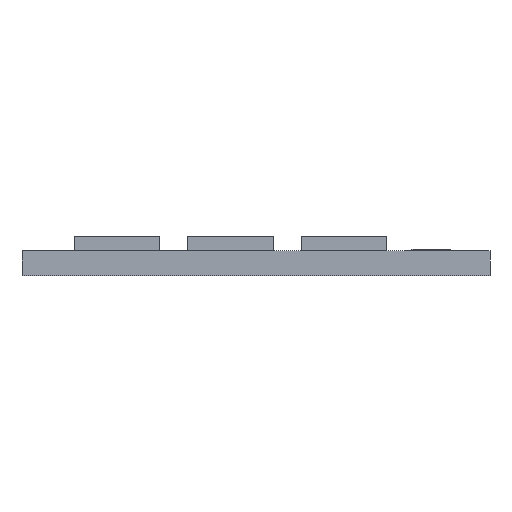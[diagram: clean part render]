
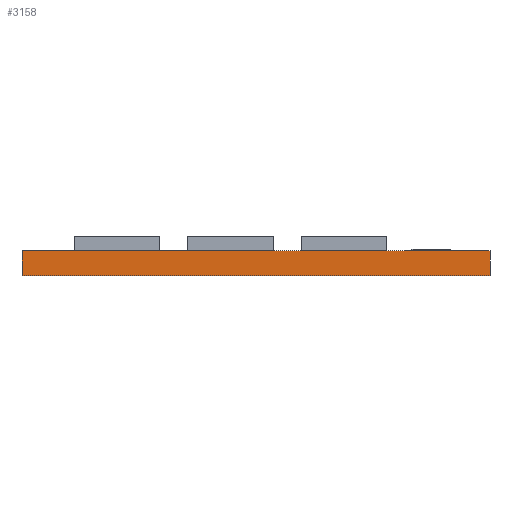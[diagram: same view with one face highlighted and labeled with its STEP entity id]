
A CAD part, left-side view. The second image highlights one B-rep face of the part: STEP entity #3158.
In plain terms, the highlighted planar face has unit normal (-1, 0, 0).
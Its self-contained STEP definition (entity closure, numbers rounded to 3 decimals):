
#3010=CARTESIAN_POINT('',(-16.5,-16.5,0.0));
#3011=VERTEX_POINT('',#3010);
#3018=CARTESIAN_POINT('',(-16.5,16.5,0.0));
#3019=VERTEX_POINT('',#3018);
#3020=CARTESIAN_POINT('',(-16.5,-16.5,0.0));
#3021=DIRECTION('',(0.0,1.0,0.0));
#3022=VECTOR('',#3021,33.0);
#3023=LINE('',#3020,#3022);
#3024=EDGE_CURVE('',#3011,#3019,#3023,.T.);
#3069=CARTESIAN_POINT('',(-16.5,-16.5,1.75));
#3070=VERTEX_POINT('',#3069);
#3077=CARTESIAN_POINT('',(-16.5,-16.5,0.0));
#3078=DIRECTION('',(0.0,0.0,1.0));
#3079=VECTOR('',#3078,1.75);
#3080=LINE('',#3077,#3079);
#3081=EDGE_CURVE('',#3011,#3070,#3080,.T.);
#3135=CARTESIAN_POINT('',(-16.5,-16.5,0.0));
#3136=DIRECTION('',(-1.0,0.0,0.0));
#3137=DIRECTION('',(0.0,0.0,1.0));
#3138=AXIS2_PLACEMENT_3D('',#3135,#3136,#3137);
#3139=PLANE('',#3138);
#3140=CARTESIAN_POINT('',(-16.5,16.5,1.75));
#3141=VERTEX_POINT('',#3140);
#3142=CARTESIAN_POINT('',(-16.5,-16.5,1.75));
#3143=DIRECTION('',(0.0,1.0,0.0));
#3144=VECTOR('',#3143,33.0);
#3145=LINE('',#3142,#3144);
#3146=EDGE_CURVE('',#3070,#3141,#3145,.T.);
#3147=ORIENTED_EDGE('',*,*,#3146,.T.);
#3148=CARTESIAN_POINT('',(-16.5,16.5,0.0));
#3149=DIRECTION('',(0.0,0.0,1.0));
#3150=VECTOR('',#3149,1.75);
#3151=LINE('',#3148,#3150);
#3152=EDGE_CURVE('',#3019,#3141,#3151,.T.);
#3153=ORIENTED_EDGE('',*,*,#3152,.F.);
#3154=ORIENTED_EDGE('',*,*,#3024,.F.);
#3155=ORIENTED_EDGE('',*,*,#3081,.T.);
#3156=EDGE_LOOP('',(#3147,#3153,#3154,#3155));
#3157=FACE_OUTER_BOUND('',#3156,.T.);
#3158=ADVANCED_FACE('',(#3157),#3139,.T.);
